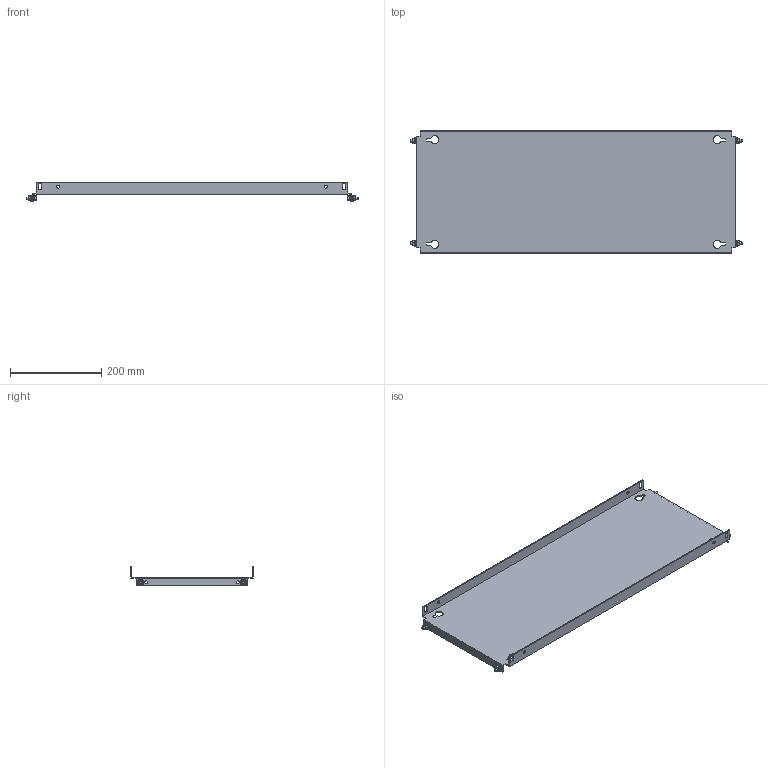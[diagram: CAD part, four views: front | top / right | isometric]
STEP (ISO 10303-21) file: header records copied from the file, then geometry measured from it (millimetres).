
FILE_DESCRIPTION(('Open CASCADE Model'),'2;1');
FILE_NAME('Open CASCADE Shape Model','2025-02-20T13:24:37',('Author'),( 'Open CASCADE'),'Open CASCADE STEP processor 7.8','Open CASCADE 7.8' ,'Unknown');
FILE_SCHEMA(('AUTOMOTIVE_DESIGN { 1 0 10303 214 1 1 1 1 }'));
Length unit declared in the file: millimetre
Products named in the file (4): Compound1; Solid1; Solid2; Solid3
Assembly tree (9 placements, depth 2):
  Compound1
    Solid1
    Solid2  x4
    Solid3  x4
Bounding box: 728 x 269 x 43 mm (x, y, z)
Volume: 460303.7 mm3; surface area: 465005.8 mm2
Topology: 9 solids, 9 shells, 306 faces, 746 edges, 462 vertices
Faces by surface type: plane 150, cone 68, bspline 48, cylinder 28, torus 12
Full cylindrical faces by diameter (mm): 5 x4, 6 x8, 7 x12
Entity records: 4844 total; most frequent: CARTESIAN_POINT 1361, ORIENTED_EDGE 742, DIRECTION 628, EDGE_CURVE 371, VERTEX_POINT 240, LINE 216, VECTOR 216, AXIS2_PLACEMENT_3D 206
